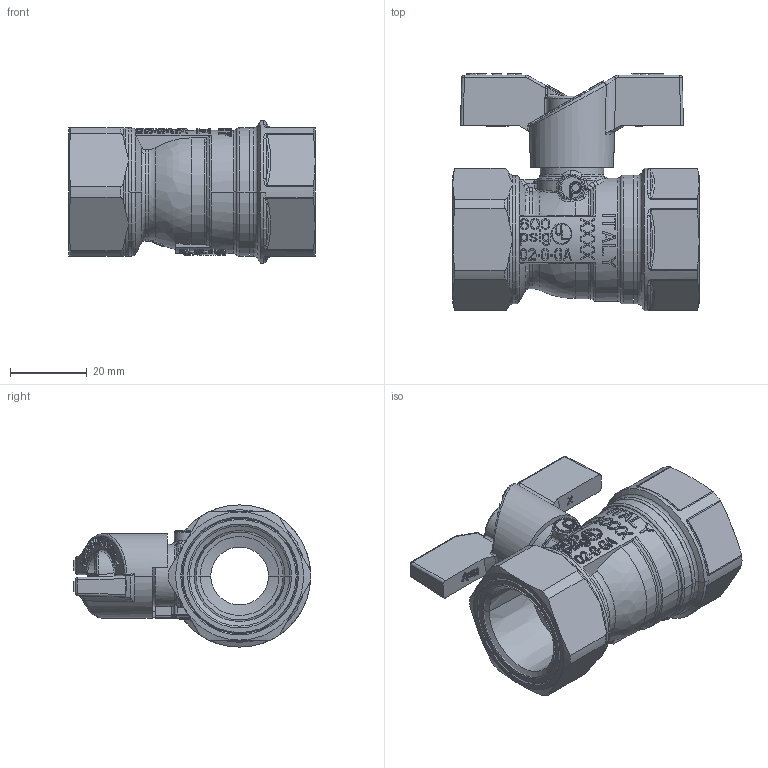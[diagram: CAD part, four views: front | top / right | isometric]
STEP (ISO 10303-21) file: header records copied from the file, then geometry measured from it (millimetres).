
FILE_DESCRIPTION((''),'2;1');
FILE_NAME('T204FF_3-4_ASM','2022-05-20T11:18:39',('Sergio.Dandrea'),(''),'CREO PARAMETRIC BY PTC INC, 2021164','CREO PARAMETRIC BY PTC INC, 2021164','');
FILE_SCHEMA(('CONFIG_CONTROL_DESIGN'));
Length unit declared in the file: millimetre
Products named in the file (8): 89150; 89152; 87057; 03074; SEDE_PTFE_F15; 89176; 87131; T204FF_3-4_ASM
Assembly tree (8 placements, depth 2):
  T204FF_3-4_ASM
    89150
    89152
    87057
    03074
    SEDE_PTFE_F15  x2
    89176
    87131
Bounding box: 64.1 x 61.75 x 37 mm (x, y, z)
Volume: 43220.4 mm3; surface area: 29869.6 mm2
Topology: 8 solids, 14 shells, 2275 faces, 6139 edges, 3995 vertices
Faces by surface type: bspline 841, plane 705, extrusion 311, cylinder 213, cone 99, torus 96, sphere 10
Entity records: 100068 total; most frequent: CARTESIAN_POINT 50022, ORIENTED_EDGE 12190, DIRECTION 7040, EDGE_CURVE 6109, VERTEX_POINT 3979, B_SPLINE_CURVE_WITH_KNOTS 2902, VECTOR 2884, LINE 2573
